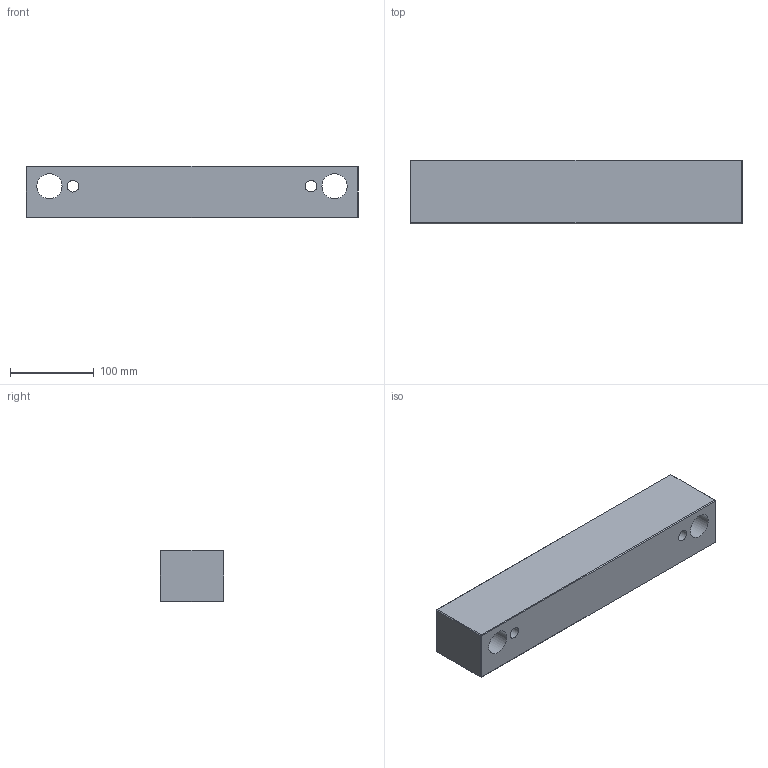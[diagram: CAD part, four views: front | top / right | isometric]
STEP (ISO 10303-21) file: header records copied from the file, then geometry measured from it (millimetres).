
FILE_DESCRIPTION(/* description */ ('STEP AP214'),/* implementation_level */ '2;1');
FILE_NAME(/* name */ 'KM0422463960761730',/* time_stamp */ '2026-07-08T16:14:37+02:00',/* author */ ('License CC BY-ND 4.0'),/* organization */ ('CADENAS'),/* preprocessor_version */ 'ST-DEVELOPER v20',/* originating_system */ 'PARTsolutions',/* authorisation */ ' ');
FILE_SCHEMA (('AUTOMOTIVE_DESIGN {1 0 10303 214 3 1 1}'));
Length unit declared in the file: millimetre
Products named in the file (1): KM0422463960761730
Bounding box: 396 x 76 x 62 mm (x, y, z)
Volume: 1734048.9 mm3; surface area: 135035.1 mm2
Topology: 1 solids, 1 shells, 22 faces, 60 edges, 40 vertices
Faces by surface type: plane 18, cylinder 4
Full cylindrical faces by diameter (mm): 14 x2, 30 x2
Entity records: 718 total; most frequent: CARTESIAN_POINT 119, ORIENTED_EDGE 112, DIRECTION 110, EDGE_CURVE 56, LINE 48, VECTOR 48, VERTEX_POINT 40, EDGE_LOOP 34
